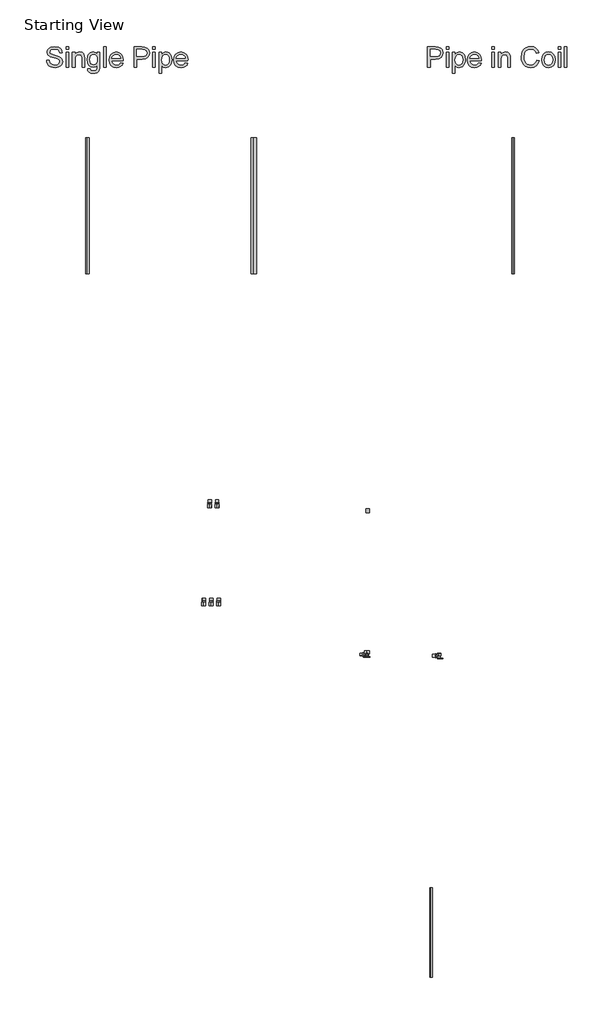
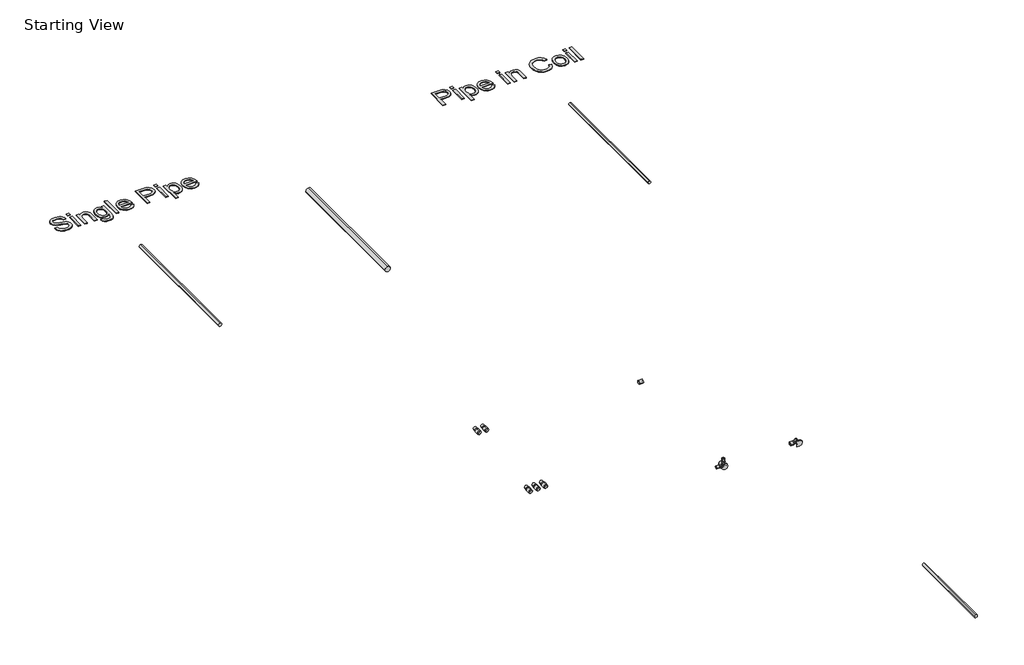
# One storey, incomplete: 9 pipe fittings, 4 pipe segments.
"""IFC4 building model written with IfcOpenShell, lengths in millimetres."""

from ifc_helpers import new_model, si_unit, point, frame, frame_2d, origin, place, context, project, spatial, circle_curve, trimmed, segment, composite_curve, outline, extrude, transform, mapped, element, save
from components import pipe_fitting_79e893a4, m5_standard_16_15_20_15_5170dde5, var_25c4f382, var_ce6fcb06, z_starting_view_new_start_4_66d65c96

model = new_model("IFC4")

# Units and contexts
model_context = context("Model", 3, world=origin())
ifc_project = project(units=[si_unit("LENGTHUNIT", "METRE", prefix="MILLI")], contexts=[model_context])

# Site, building, storey
site = spatial("IfcSite", under=ifc_project)
building = spatial("IfcBuilding", under=site)
storey = spatial("IfcBuildingStorey", under=building, Name="Starting View", Elevation=0.0)

# Pipe fittings
placement = place(None, origin())
pipe_fitting_shape = pipe_fitting_79e893a4(model_context)
element("IfcPipeFitting", 1, ObjectType="PIF_Tigris_Double_Wall_Flange_M-K_FMT_Wavin : Diameters 16-15/20-15", at=placement, inside=storey, context=model_context, shape_type="MappedRepresentation", body=[
    mapped(pipe_fitting_shape, transform((9738.5739894, 8250.2159647, 0.0), x_axis=(1.0, 0.0, 0.0), y_axis=(0.0, 1.0, 0.0), z_axis=(0.0, 0.0, 1.0))),
])
m5_standard_16_15_20_15_shape = m5_standard_16_15_20_15_5170dde5(model_context)
element("IfcPipeFitting", 2, ObjectType="PIF_Tigris_Wall_Flange_Elbow_M-K_FMT_Wavin : M5 Standard 16-15/20-15", at=placement, inside=storey, context=model_context, shape_type="MappedRepresentation", body=[
    mapped(m5_standard_16_15_20_15_shape, transform((10269.367503, 8240.8528188, 0.0), x_axis=(1.0, 0.0, 0.0), y_axis=(0.0, 1.0, 0.0), z_axis=(0.0, 0.0, 1.0))),
])
var_shape = var_25c4f382(model_context)
element("IfcPipeFitting", 3, ObjectType="Z_PIF_Tigris_K1_Manifold_Female_Cap_Wavin_(nested) : Var.", at=placement, inside=storey, context=model_context, shape_type="MappedRepresentation", body=[
    mapped(var_shape, transform((9750.6276945, 9307.1752301, 0.0), x_axis=(1.0, 0.0, 0.0), y_axis=(0.0, 1.0, 0.0), z_axis=(0.0, 0.0, 1.0))),
])
var_2_shape = var_ce6fcb06(model_context)
element("IfcPipeFitting", 4, ObjectType="Z_PIF_Tigris_Manifold_Connector_K5_Wavin_(nested) : Var.", at=placement, inside=storey, context=model_context, shape_type="MappedRepresentation", body=[
    mapped(var_2_shape, transform((8635.5854642, 9362.0990197, 0.0), x_axis=(0.0, 1.0, 0.0), y_axis=(-1.0, 0.0, 0.0), z_axis=(0.0, 0.0, 1.0))),
])
element("IfcPipeFitting", 5, ObjectType="Z_PIF_Tigris_Manifold_Connector_K5_Wavin_(nested) : Var.", at=placement, inside=storey, context=model_context, shape_type="MappedRepresentation", body=[
    mapped(var_2_shape, transform((8580.5854642, 9362.0990197, 0.0), x_axis=(0.0, 1.0, 0.0), y_axis=(-1.0, 0.0, 0.0), z_axis=(0.0, 0.0, 1.0))),
])
element("IfcPipeFitting", 6, ObjectType="Z_PIF_Tigris_Manifold_Connector_K5_Wavin_(nested) : Var.", at=placement, inside=storey, context=model_context, shape_type="MappedRepresentation", body=[
    mapped(var_2_shape, transform((8646.9719106, 8639.0596721, 0.0), x_axis=(0.0, 1.0, 0.0), y_axis=(-1.0, 0.0, 0.0), z_axis=(0.0, 0.0, 1.0))),
])
element("IfcPipeFitting", 7, ObjectType="Z_PIF_Tigris_Manifold_Connector_K5_Wavin_(nested) : Var.", at=placement, inside=storey, context=model_context, shape_type="MappedRepresentation", body=[
    mapped(var_2_shape, transform((8591.9719106, 8639.0596721, 0.0), x_axis=(0.0, 1.0, 0.0), y_axis=(-1.0, 0.0, 0.0), z_axis=(0.0, 0.0, 1.0))),
])
element("IfcPipeFitting", 8, ObjectType="Z_PIF_Tigris_Manifold_Connector_K5_Wavin_(nested) : Var.", at=placement, inside=storey, context=model_context, shape_type="MappedRepresentation", body=[
    mapped(var_2_shape, transform((8536.9719106, 8639.0596721, 0.0), x_axis=(0.0, 1.0, 0.0), y_axis=(-1.0, 0.0, 0.0), z_axis=(0.0, 0.0, 1.0))),
])
z_starting_view_new_start_4_shape = z_starting_view_new_start_4_66d65c96(model_context)
element("IfcPipeFitting", 9, ObjectType="Z_Starting_View_New : Start_4", at=placement, inside=storey, context=model_context, shape_type="MappedRepresentation", body=[
    mapped(z_starting_view_new_start_4_shape, transform((-14736.6014019, 5123.8041676, 0.0), x_axis=(1.0, 0.0, 0.0), y_axis=(0.0, 1.0, 0.0), z_axis=(0.0, 0.0, 1.0))),
])

# Pipe segments
element("IfcPipeSegment", 10, ObjectType="Wavin Tigris Single Pipe 5m (OD) - Standard", at=placement, inside=storey, context=model_context, shape_type="SweptSolid", body=[
    extrude(outline(composite_curve([segment(trimmed(circle_curve(frame_2d((107.5, 8905.0329674)), 20.0), [point((107.5, 8925.0329674))], [point((127.5, 8905.0329674))], False, "CARTESIAN"), True, "CONTINUOUS"), segment(trimmed(circle_curve(frame_2d((107.5, 8905.0329674)), 20.0), [point((127.5, 8905.0329674))], [point((107.5, 8885.0329674))], False, "CARTESIAN"), True, "CONTINUOUS"), segment(trimmed(circle_curve(frame_2d((107.5, 8905.0329674)), 20.0), [point((107.5, 8885.0329674))], [point((87.5, 8905.0329674))], False, "CARTESIAN"), True, "CONTINUOUS"), segment(trimmed(circle_curve(frame_2d((107.5, 8905.0329674)), 20.0), [point((87.5, 8905.0329674))], [point((107.5, 8925.0329674))], False, "CARTESIAN"), True, "CONTINUOUS")], self_intersect=False)), frame((0.0, 11051.3669944, 0.0), z_axis=(0.0, 1.0, 0.0), x_axis=(0.0, 0.0, 1.0)), (0.0, 0.0, 1.0), 1000.0),
])
element("IfcPipeSegment", 11, ObjectType="Wavin Tigris Pipe in Coil (OD) - Standard", at=placement, inside=storey, context=model_context, shape_type="SweptSolid", body=[
    extrude(outline(composite_curve([segment(trimmed(circle_curve(frame_2d((107.5, 10815.0329674)), 10.0), [point((107.5, 10825.0329674))], [point((117.5, 10815.0329674))], False, "CARTESIAN"), True, "CONTINUOUS"), segment(trimmed(circle_curve(frame_2d((107.5, 10815.0329674)), 10.0), [point((117.5, 10815.0329674))], [point((107.5, 10805.0329674))], False, "CARTESIAN"), True, "CONTINUOUS"), segment(trimmed(circle_curve(frame_2d((107.5, 10815.0329674)), 10.0), [point((107.5, 10805.0329674))], [point((97.5, 10815.0329674))], False, "CARTESIAN"), True, "CONTINUOUS"), segment(trimmed(circle_curve(frame_2d((107.5, 10815.0329674)), 10.0), [point((97.5, 10815.0329674))], [point((107.5, 10825.0329674))], False, "CARTESIAN"), True, "CONTINUOUS")], self_intersect=False)), frame((0.0, 11051.3669944, 0.0), z_axis=(0.0, 1.0, 0.0), x_axis=(0.0, 0.0, 1.0)), (0.0, 0.0, 1.0), 1000.0),
])
element("IfcPipeSegment", 12, ObjectType="Wavin Tigris Single Pipe 3m (OD) - Standard", at=placement, inside=storey, context=model_context, shape_type="SweptSolid", body=[
    extrude(outline(composite_curve([segment(trimmed(circle_curve(frame_2d((107.5, 7680.638758)), 12.5), [point((107.5, 7693.138758))], [point((120.0, 7680.638758))], False, "CARTESIAN"), True, "CONTINUOUS"), segment(trimmed(circle_curve(frame_2d((107.5, 7680.638758)), 12.5), [point((120.0, 7680.638758))], [point((107.5, 7668.138758))], False, "CARTESIAN"), True, "CONTINUOUS"), segment(trimmed(circle_curve(frame_2d((107.5, 7680.638758)), 12.5), [point((107.5, 7668.138758))], [point((95.0, 7680.638758))], False, "CARTESIAN"), True, "CONTINUOUS"), segment(trimmed(circle_curve(frame_2d((107.5, 7680.638758)), 12.5), [point((95.0, 7680.638758))], [point((107.5, 7693.138758))], False, "CARTESIAN"), True, "CONTINUOUS")], self_intersect=False)), frame((0.0, 11050.5911303, 0.0), z_axis=(0.0, 1.0, 0.0), x_axis=(0.0, 0.0, 1.0)), (0.0, 0.0, 1.0), 1000.0),
])
element("IfcPipeSegment", 13, ObjectType="Universal Transition Pipe", at=placement, inside=storey, context=model_context, shape_type="SweptSolid", body=[
    extrude(outline(composite_curve([segment(trimmed(circle_curve(frame_2d((107.5, 10211.366847)), 10.65), [point((107.5, 10222.016847))], [point((118.15, 10211.366847))], False, "CARTESIAN"), True, "CONTINUOUS"), segment(trimmed(circle_curve(frame_2d((107.5, 10211.366847)), 10.65), [point((118.15, 10211.366847))], [point((107.5, 10200.716847))], False, "CARTESIAN"), True, "CONTINUOUS"), segment(trimmed(circle_curve(frame_2d((107.5, 10211.366847)), 10.65), [point((107.5, 10200.716847))], [point((96.85, 10211.366847))], False, "CARTESIAN"), True, "CONTINUOUS"), segment(trimmed(circle_curve(frame_2d((107.5, 10211.366847)), 10.65), [point((96.85, 10211.366847))], [point((107.5, 10222.016847))], False, "CARTESIAN"), True, "CONTINUOUS")], self_intersect=False)), frame((0.0, 5874.231415, 0.0), z_axis=(0.0, 1.0, 0.0), x_axis=(0.0, 0.0, 1.0)), (0.0, 0.0, 1.0), 660.0),
])

save(model, "model.ifc")
